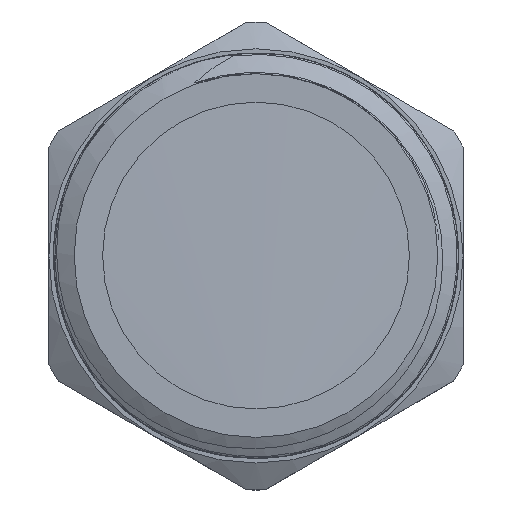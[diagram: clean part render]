
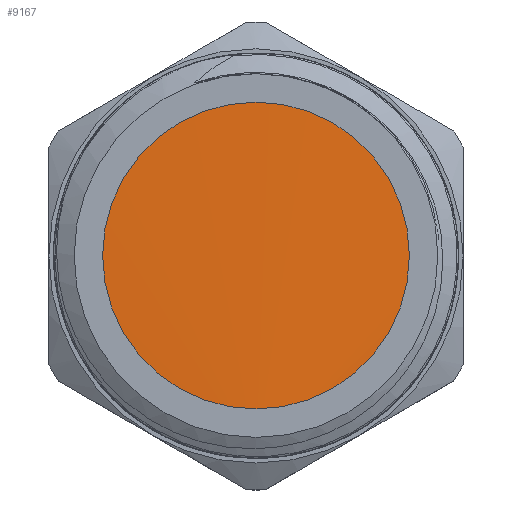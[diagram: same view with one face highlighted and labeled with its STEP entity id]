
A CAD part, top view. The second image highlights one B-rep face of the part: STEP entity #9167.
In plain terms, the highlighted cylindrical face has radius 13.2 mm (diameter 26.4 mm), a full revolution.
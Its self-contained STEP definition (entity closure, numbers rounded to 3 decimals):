
#953=B_SPLINE_CURVE_WITH_KNOTS('',3,(#21550,#21551,#21552,#21553,#21554,
#21555,#21556,#21557,#21558,#21559,#21560,#21561,#21562,#21563,#21564,#21565,
#21566),.UNSPECIFIED.,.F.,.F.,(4,1,1,1,1,1,1,1,1,1,1,1,1,1,4),(31.416,
31.717,32.209,32.7,33.192,33.683,
34.175,34.666,35.158,35.65,36.141,
36.633,37.124,37.616,37.699),
 .UNSPECIFIED.);
#1639=LINE('',#21461,#2128);
#1641=LINE('',#21549,#2130);
#2128=VECTOR('',#10942,13.2);
#2130=VECTOR('',#10950,13.2);
#2196=CYLINDRICAL_SURFACE('',#9619,13.2);
#2696=FACE_OUTER_BOUND('',#3252,.T.);
#3252=EDGE_LOOP('',(#8567,#8568,#8569));
#4434=VERTEX_POINT('',#21459);
#4435=VERTEX_POINT('',#21460);
#4439=VERTEX_POINT('',#21548);
#5814=EDGE_CURVE('',#4434,#4435,#1639,.T.);
#5820=EDGE_CURVE('',#4439,#4435,#1641,.T.);
#5821=EDGE_CURVE('',#4439,#4434,#953,.T.);
#8567=ORIENTED_EDGE('',*,*,#5814,.T.);
#8568=ORIENTED_EDGE('',*,*,#5820,.F.);
#8569=ORIENTED_EDGE('',*,*,#5821,.T.);
#9167=ADVANCED_FACE('',(#2696),#2196,.T.);
#9619=AXIS2_PLACEMENT_3D('',#21547,#10948,#10949);
#10942=DIRECTION('',(0.,0.,1.));
#10948=DIRECTION('center_axis',(0.,0.,1.));
#10949=DIRECTION('ref_axis',(0.,1.,0.));
#10950=DIRECTION('',(0.,0.,-1.));
#21459=CARTESIAN_POINT('',(0.,-13.2,42.111));
#21460=CARTESIAN_POINT('',(0.,-13.2,43.91));
#21461=CARTESIAN_POINT('',(0.,-13.2,47.));
#21547=CARTESIAN_POINT('Origin',(0.,0.,47.));
#21548=CARTESIAN_POINT('',(0.,-13.2,43.927));
#21549=CARTESIAN_POINT('',(0.,-13.2,47.));
#21550=CARTESIAN_POINT('Ctrl Pts',(0.,-13.199,
43.927));
#21551=CARTESIAN_POINT('Ctrl Pts',(-1.324,-13.198,43.898));
#21552=CARTESIAN_POINT('Ctrl Pts',(-4.813,-12.676,
43.822));
#21553=CARTESIAN_POINT('Ctrl Pts',(-9.788,-9.648,
43.698));
#21554=CARTESIAN_POINT('Ctrl Pts',(-13.183,-3.886,
43.556));
#21555=CARTESIAN_POINT('Ctrl Pts',(-13.456,2.797,43.414));
#21556=CARTESIAN_POINT('Ctrl Pts',(-10.542,8.817,43.272));
#21557=CARTESIAN_POINT('Ctrl Pts',(-5.132,12.749,43.13));
#21558=CARTESIAN_POINT('Ctrl Pts',(1.493,13.662,42.988));
#21559=CARTESIAN_POINT('Ctrl Pts',(7.765,11.34,42.846));
#21560=CARTESIAN_POINT('Ctrl Pts',(12.198,6.332,42.703));
#21561=CARTESIAN_POINT('Ctrl Pts',(13.742,-0.176,
42.561));
#21562=CARTESIAN_POINT('Ctrl Pts',(12.032,-6.642,42.419));
#21563=CARTESIAN_POINT('Ctrl Pts',(7.473,-11.535,42.277));
#21564=CARTESIAN_POINT('Ctrl Pts',(2.896,-13.097,42.174));
#21565=CARTESIAN_POINT('Ctrl Pts',(0.367,-13.201,42.119));
#21566=CARTESIAN_POINT('Ctrl Pts',(0.,-13.2,
42.111));
